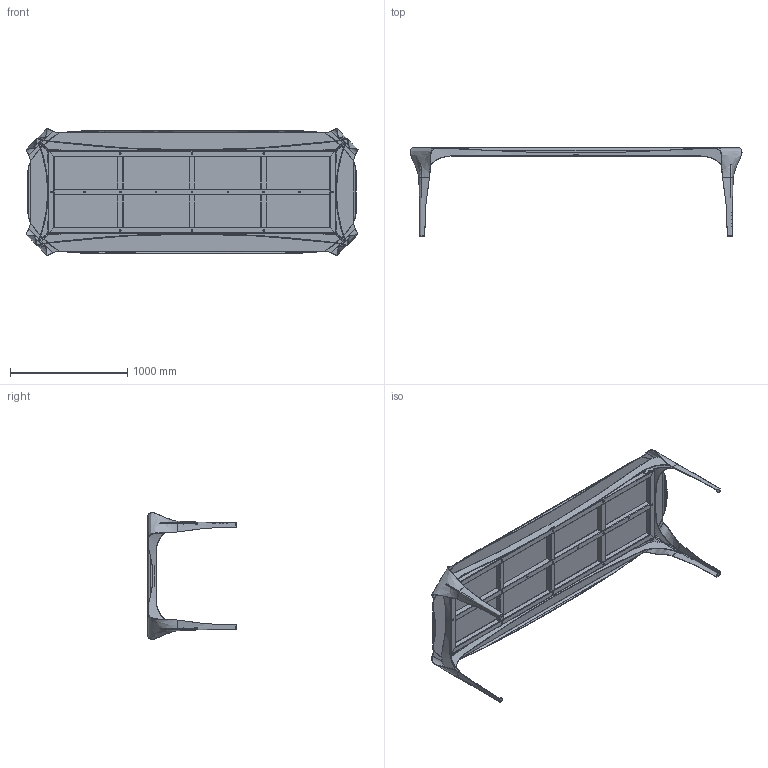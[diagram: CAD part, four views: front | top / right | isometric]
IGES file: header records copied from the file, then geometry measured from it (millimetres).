
Start section: SolidWorks IGES file using analytic representation for surfaces
Global section: file name: C:\VaultDeCastelli\Progetti\DC\DC530 - CONVIVIUM 280 TAVOLO\DC530.IGS; native system: SolidWorks 2020; preprocessor: SolidWorks 2020; author: AlessandroP; date: 210107.123658; units: millimetre
Bounding box: 2833.89 x 751.73 x 1083.89 mm (x, y, z)
Surface area: 10111247.4 mm2 (no closed solid volume)
Topology: 0 solids, 0 shells, 294 faces, 6289 edges, 6289 vertices
Faces by surface type: bspline 178, revolution 116
